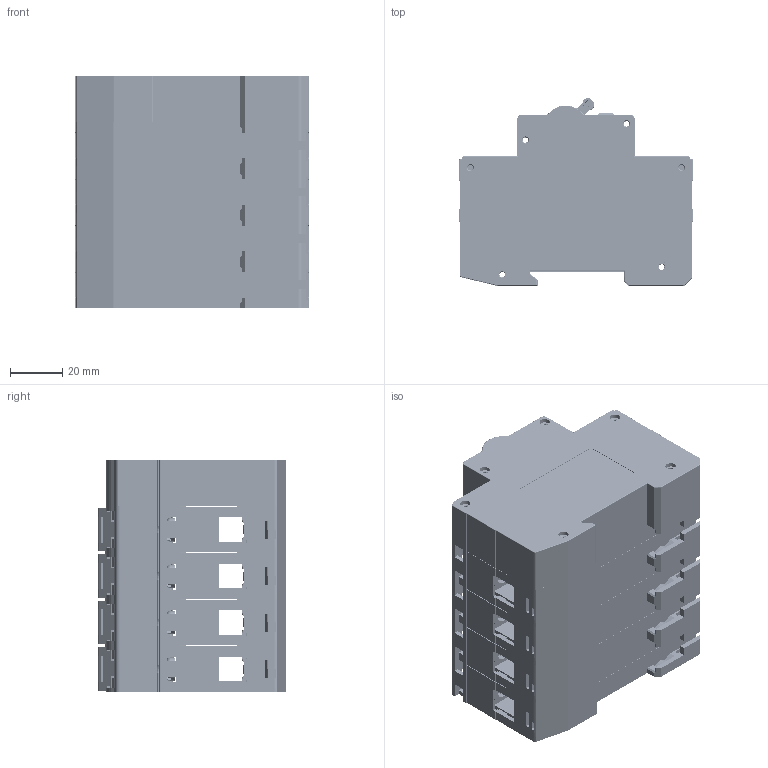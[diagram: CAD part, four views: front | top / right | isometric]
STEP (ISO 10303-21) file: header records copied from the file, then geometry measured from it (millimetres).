
FILE_DESCRIPTION (( 'STEP AP214' ), '1' );
FILE_NAME ('NDB2F-125GQ¹â·ü²¢Íø.STEP', '2023-12-04T07:40:42', ( '' ), ( '' ), 'SwSTEP 2.0', 'SolidWorks 2018', '' );
FILE_SCHEMA (( 'AUTOMOTIVE_DESIGN' ));
Length unit declared in the file: millimetre
Products named in the file (15): 錨璃1-1; NDB2F-125GQ嫖睦甜厙; 錨璃1; 錨璃2^嫖睦甜厙; 蹟隊; 價釱2; 18-2-1; 錨璃6^嫖睦甜厙; 18蚾饜极; 18-3; WL8.253.138; 裔11; 錨璃1^嫖睦甜厙; 18-2; 諉盄遺
Assembly tree (32 placements, depth 4):
  NDB2F-125GQ嫖睦甜厙
    18蚾饜极
      18-2
        諉盄遺  x2
        蹟隊  x2
        裔11
      18-2-1
        諉盄遺
        蹟隊  x2
        裔11
      18-3  x4
        諉盄遺
        蹟隊
        WL8.253.138
        裔11
        價釱2
      諉盄遺
      蹟隊  x2
      裔11
    錨璃1
    錨璃1-1
    錨璃1^嫖睦甜厙
    錨璃2^嫖睦甜厙
    錨璃6^嫖睦甜厙
Bounding box: 89.6 x 71.92 x 89 mm (x, y, z)
Volume: 163301.3 mm3; surface area: 257448.7 mm2
Topology: 46 solids, 46 shells, 8569 faces, 24088 edges, 15897 vertices
Faces by surface type: plane 5511, cylinder 2625, torus 201, cone 159, bspline 66, sphere 7
Entity records: 66513 total; most frequent: CARTESIAN_POINT 13369, ORIENTED_EDGE 11084, DIRECTION 10687, EDGE_CURVE 5542, VECTOR 4105, LINE 4105, VERTEX_POINT 3624, AXIS2_PLACEMENT_3D 3291
